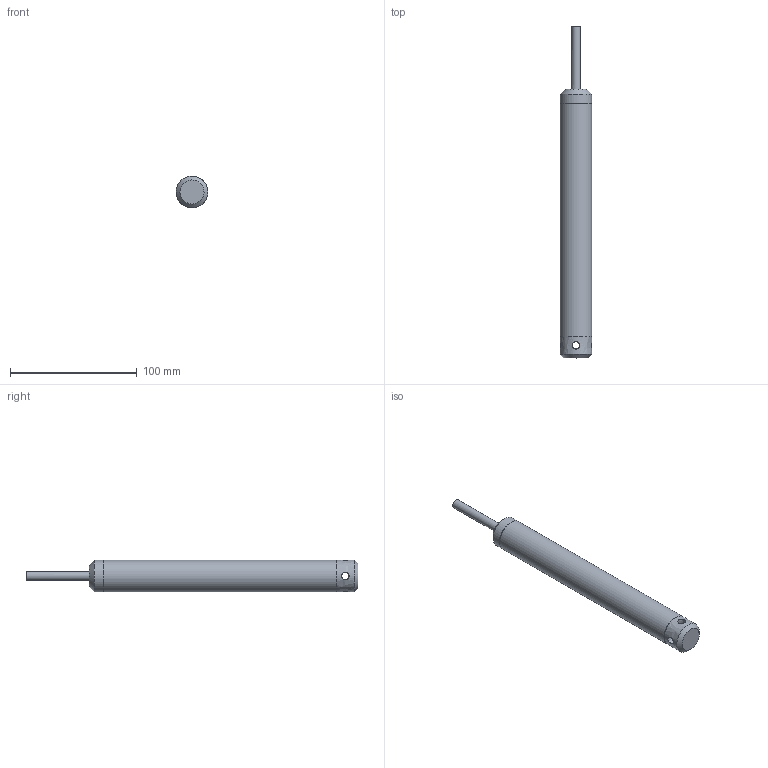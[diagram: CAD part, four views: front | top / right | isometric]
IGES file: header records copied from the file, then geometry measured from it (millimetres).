
Global section: file name: NBK; native system: Autodesk Inventor 2015; preprocessor: unknown; author: aantal; date: 20150708.083611; units: millimetre
Bounding box: 25 x 262 x 25 mm (x, y, z)
Volume: 103823.3 mm3; surface area: 19223.2 mm2
Topology: 1 solids, 1 shells, 20 faces, 54 edges, 38 vertices
Faces by surface type: bspline 20
